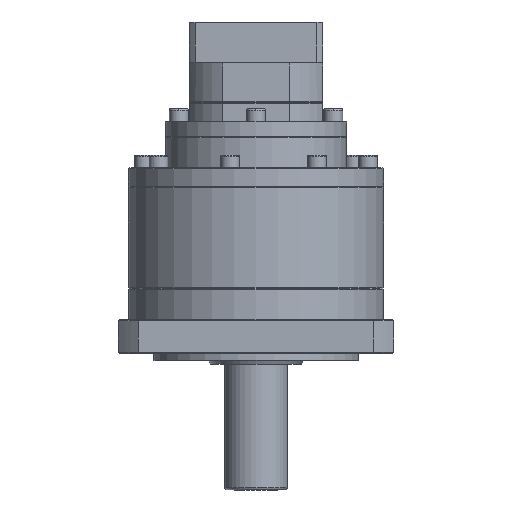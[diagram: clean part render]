
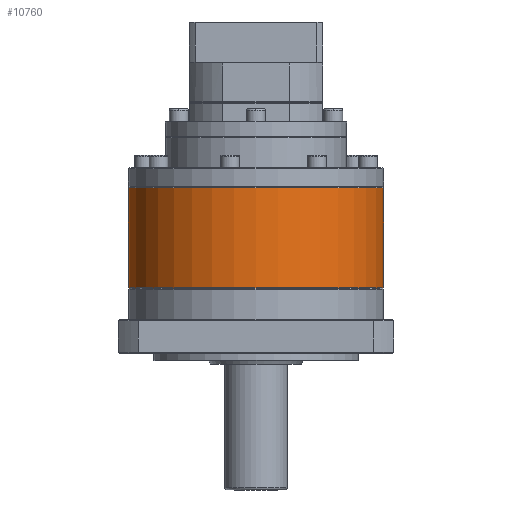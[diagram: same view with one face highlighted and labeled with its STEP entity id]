
A CAD part, front view. The second image highlights one B-rep face of the part: STEP entity #10760.
In plain terms, the highlighted cylindrical face has radius 81 mm (diameter 162 mm), a partial arc.
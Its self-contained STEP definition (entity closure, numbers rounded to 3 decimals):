
#783 = AXIS2_PLACEMENT_3D ( 'NONE', #67962, #3736, #84272 ) ;
#808 = FACE_OUTER_BOUND ( 'NONE', #14238, .T. ) ;
#3736 = DIRECTION ( 'NONE',  ( 0., 0., -1. ) ) ;
#3782 = CARTESIAN_POINT ( 'NONE',  ( -17.889, 11.709, 251.6 ) ) ;
#7057 = AXIS2_PLACEMENT_3D ( 'NONE', #32084, #64318, #15682 ) ;
#10399 = EDGE_CURVE ( 'NONE', #71493, #54685, #14829, .T. ) ;
#10760 = ADVANCED_FACE ( 'NONE', ( #808 ), #40145, .T. ) ;
#14238 = EDGE_LOOP ( 'NONE', ( #43566, #81182, #24324, #67101 ) ) ;
#14829 = LINE ( 'NONE', #29170, #35257 ) ;
#15682 = DIRECTION ( 'NONE',  ( -1., 0., 0. ) ) ;
#19874 = DIRECTION ( 'NONE',  ( 0., 0., -1. ) ) ;
#24324 = ORIENTED_EDGE ( 'NONE', *, *, #10399, .T. ) ;
#28685 = VERTEX_POINT ( 'NONE', #49517 ) ;
#29170 = CARTESIAN_POINT ( 'NONE',  ( -98.889, 11.709, 315.6 ) ) ;
#31356 = CIRCLE ( 'NONE', #783, 81. ) ;
#32084 = CARTESIAN_POINT ( 'NONE',  ( -17.889, 11.709, 315.6 ) ) ;
#35257 = VECTOR ( 'NONE', #61750, 1000. ) ;
#36415 = EDGE_CURVE ( 'NONE', #78206, #71493, #31356, .T. ) ;
#37479 = DIRECTION ( 'NONE',  ( -1., 0., 0. ) ) ;
#40145 = CYLINDRICAL_SURFACE ( 'NONE', #7057, 81. ) ;
#42169 = EDGE_CURVE ( 'NONE', #54685, #28685, #48682, .T. ) ;
#43566 = ORIENTED_EDGE ( 'NONE', *, *, #67182, .F. ) ;
#48682 = CIRCLE ( 'NONE', #102012, 81. ) ;
#49517 = CARTESIAN_POINT ( 'NONE',  ( 63.111, 11.709, 251.6 ) ) ;
#53477 = DIRECTION ( 'NONE',  ( 0., 0., 1. ) ) ;
#54685 = VERTEX_POINT ( 'NONE', #69220 ) ;
#61750 = DIRECTION ( 'NONE',  ( 0., 0., -1. ) ) ;
#64318 = DIRECTION ( 'NONE',  ( 0., 0., -1. ) ) ;
#66299 = CARTESIAN_POINT ( 'NONE',  ( -98.889, 11.709, 315.1 ) ) ;
#66837 = VECTOR ( 'NONE', #19874, 1000. ) ;
#67101 = ORIENTED_EDGE ( 'NONE', *, *, #42169, .T. ) ;
#67182 = EDGE_CURVE ( 'NONE', #78206, #28685, #98589, .T. ) ;
#67962 = CARTESIAN_POINT ( 'NONE',  ( -17.889, 11.709, 315.1 ) ) ;
#69220 = CARTESIAN_POINT ( 'NONE',  ( -98.889, 11.709, 251.6 ) ) ;
#71493 = VERTEX_POINT ( 'NONE', #66299 ) ;
#78206 = VERTEX_POINT ( 'NONE', #93553 ) ;
#81182 = ORIENTED_EDGE ( 'NONE', *, *, #36415, .T. ) ;
#83687 = CARTESIAN_POINT ( 'NONE',  ( 63.111, 11.709, 315.6 ) ) ;
#84272 = DIRECTION ( 'NONE',  ( -1., 0., 0. ) ) ;
#93553 = CARTESIAN_POINT ( 'NONE',  ( 63.111, 11.709, 315.1 ) ) ;
#98589 = LINE ( 'NONE', #83687, #66837 ) ;
#102012 = AXIS2_PLACEMENT_3D ( 'NONE', #3782, #53477, #37479 ) ;
